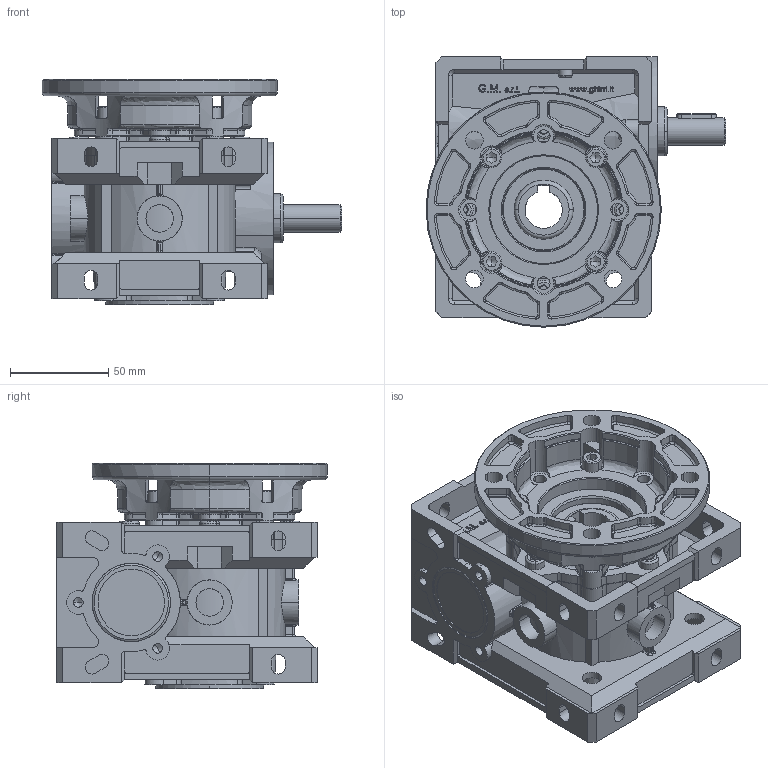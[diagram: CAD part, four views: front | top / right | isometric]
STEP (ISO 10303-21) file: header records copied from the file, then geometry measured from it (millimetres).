
FILE_DESCRIPTION((''),'2;1');
FILE_NAME('\\Gmtech3\usr\3D\MV_V\40\STP\VFU40.stp','2005-06-17T16:19:33',('tech2'),(''),'Autodesk Inventor 9','Autodesk Inventor 9','');
FILE_SCHEMA(('AUTOMOTIVE_DESIGN { 1 0 10303 214 1 1 1 1 }'));
Length unit declared in the file: millimetre
Products named in the file (15): VFU40; 4004001-A0; 4004004-A0; TCCE-6X16-ribassata; 4004008-A0; UNI-ISO 6194-1 (4) Tipo4 30 x  42 x  7; Capp-40-7; Guarnizione-tappo-3-8-gas; Tappo-3-8-gas-nero; VITE_MV40; UNI-ISO 6194-1 (4) Tipo4 25 x  47 x  7; FU_MV40; UNI 5931  (Filetto regolare) M 6 x  16; UNI 6604  A A 5 x  5 x  20
Assembly tree (21 placements, depth 3):
  VFU40
    4004001-A0
    4004004-A0
    TCCE-6X16-ribassata  x4
    4004008-A0
    UNI-ISO 6194-1 (4) Tipo4 30 x  42 x  7  x2
    Capp-40-7
    Guarnizione-tappo-3-8-gas
    Tappo-3-8-gas-nero
    VITE_MV40
    UNI-ISO 6194-1 (4) Tipo4 25 x  47 x  7
    FU_MV40
      FU_MV40
      UNI 5931  (Filetto regolare) M 6 x  16  x4
    UNI 6604  A A 5 x  5 x  20
Bounding box: 153 x 138 x 115 mm (x, y, z)
Volume: 745510.1 mm3; surface area: 220771.4 mm2
Topology: 20 solids, 20 shells, 2524 faces, 6664 edges, 4245 vertices
Faces by surface type: plane 847, cylinder 762, bspline 615, cone 220, torus 70, sphere 10
Entity records: 85845 total; most frequent: CARTESIAN_POINT 28566, ORIENTED_EDGE 12418, DIRECTION 11395, EDGE_CURVE 6209, AXIS2_PLACEMENT_3D 4136, VERTEX_POINT 3995, VECTOR 3123, LINE 3123
